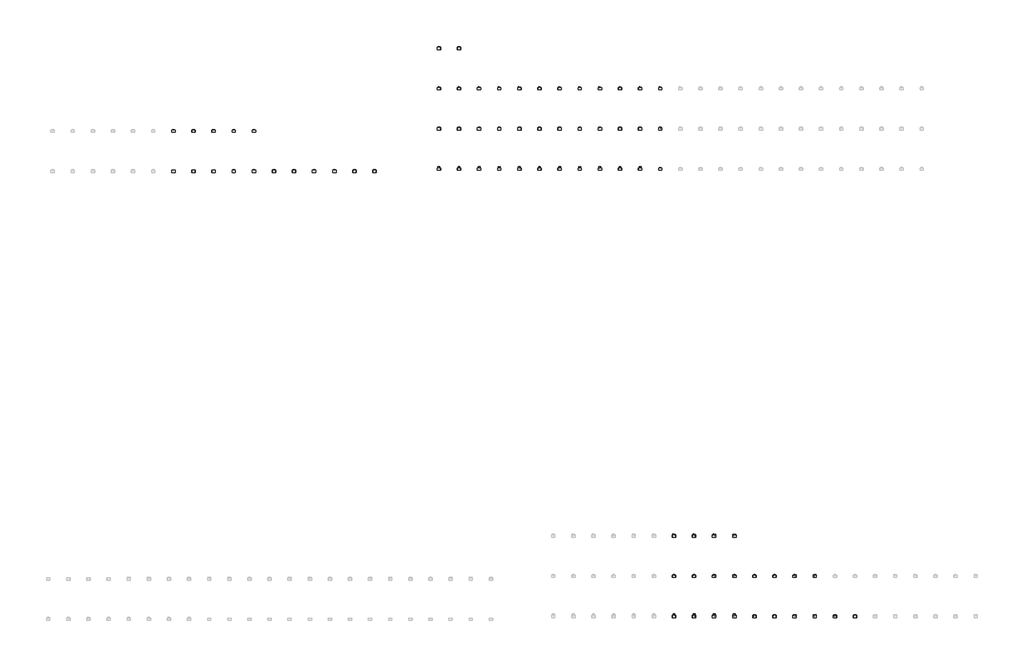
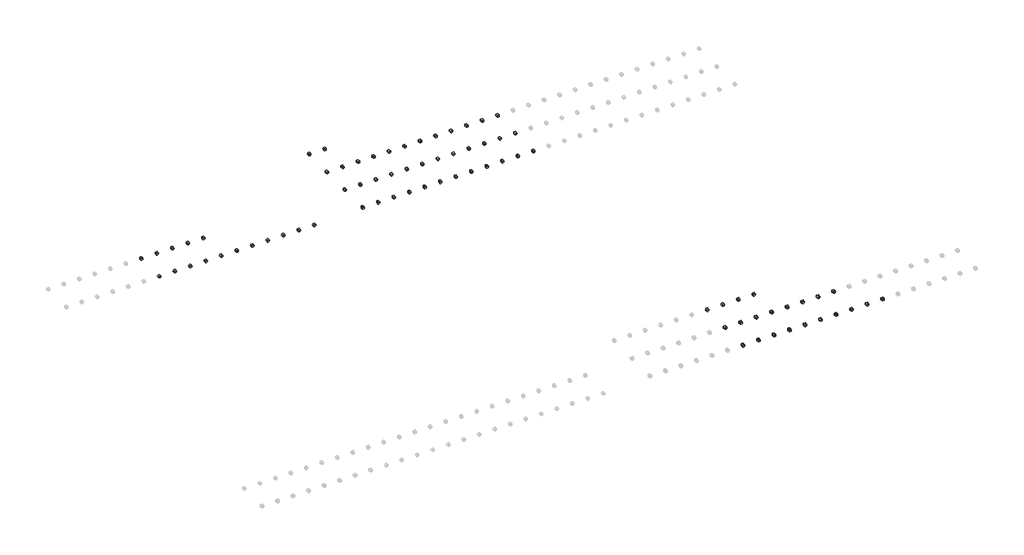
# One storey, part 12 of 18: 76 cable carrier fittings, 73 proxies.
"""IFC4 building model written with IfcOpenShell, lengths in millimetres."""

from ifc_helpers import new_model, si_unit, origin, place, context, project, spatial, transform, mapped, element, save
from components import electrical_fixtures_43cedca7, electrical_fixtures_73520d25, electrical_fixtures_1f2eaab9, electrical_fixtures_085c7708, electrical_fixtures_01d7cf26, electrical_fixtures_795b5cfc, electrical_fixtures_8f9d2783, electrical_fixtures_86e99d6b, electrical_fixtures_d0569d21, electrical_fixtures_aca33f49, electrical_fixtures_ba285ae0, electrical_fixtures_0364c754, cable_carrier_fitting_a64d4eba

model = new_model("IFC4")

# Units and contexts
model_context = context("Model", 3, world=origin())
ifc_project = project(units=[si_unit("LENGTHUNIT", "METRE", prefix="MILLI")], contexts=[model_context])

# Site, building, storey
site = spatial("IfcSite", under=ifc_project)
building = spatial("IfcBuilding", under=site)
storey = spatial("IfcBuildingStorey", under=building, Name="Этаж 01", Elevation=0.0)

# Proxies
placement = place(None, origin())
electrical_fixtures_shape = electrical_fixtures_43cedca7(model_context)
element("IfcBuildingElementProxy", 1, Name="IEK_Brite_Механизм розетки мультимедийной : АС_РА10-БрС", ObjectType="IEK_Brite_Механизм розетки мультимедийной : АС_РА10-БрС", at=placement, inside=storey, context=model_context, shape_type="MappedRepresentation", body=[
    mapped(electrical_fixtures_shape, transform((64136.4805226, -17760.0, 0.0), x_axis=(1.0, 0.0, 0.0), y_axis=(0.0, 1.0, 0.0), z_axis=(0.0, 0.0, 1.0))),
])
element("IfcBuildingElementProxy", 2, Name="IEK_Brite_Механизм розетки мультимедийной : АС_РА10-БрТБ", ObjectType="IEK_Brite_Механизм розетки мультимедийной : АС_РА10-БрТБ", at=placement, inside=storey, context=model_context, shape_type="MappedRepresentation", body=[
    mapped(electrical_fixtures_shape, transform((64536.4805226, -17760.0, 0.0), x_axis=(1.0, 0.0, 0.0), y_axis=(0.0, 1.0, 0.0), z_axis=(0.0, 0.0, 1.0))),
])
element("IfcBuildingElementProxy", 3, Name="IEK_Brite_Механизм розетки мультимедийной : АС_РА10-БрЧ", ObjectType="IEK_Brite_Механизм розетки мультимедийной : АС_РА10-БрЧ", at=placement, inside=storey, context=model_context, shape_type="MappedRepresentation", body=[
    mapped(electrical_fixtures_shape, transform((64936.4805226, -17760.0, 0.0), x_axis=(1.0, 0.0, 0.0), y_axis=(0.0, 1.0, 0.0), z_axis=(0.0, 0.0, 1.0))),
])
element("IfcBuildingElementProxy", 4, Name="IEK_Brite_Механизм розетки мультимедийной : АС_РА10-БрШ", ObjectType="IEK_Brite_Механизм розетки мультимедийной : АС_РА10-БрШ", at=placement, inside=storey, context=model_context, shape_type="MappedRepresentation", body=[
    mapped(electrical_fixtures_shape, transform((65336.4805226, -17760.0, 0.0), x_axis=(1.0, 0.0, 0.0), y_axis=(0.0, 1.0, 0.0), z_axis=(0.0, 0.0, 1.0))),
])
electrical_fixtures_2_shape = electrical_fixtures_73520d25(model_context)
element("IfcBuildingElementProxy", 5, Name="IEK_Brite_Механизм розетки мультимедийной : HDMI_РHDMI-0-БрА", ObjectType="IEK_Brite_Механизм розетки мультимедийной : HDMI_РHDMI-0-БрА", at=placement, inside=storey, context=model_context, shape_type="MappedRepresentation", body=[
    mapped(electrical_fixtures_2_shape, transform((65736.4805226, -17760.0, 0.0), x_axis=(1.0, 0.0, 0.0), y_axis=(0.0, 1.0, 0.0), z_axis=(0.0, 0.0, 1.0))),
])
element("IfcBuildingElementProxy", 6, Name="IEK_Brite_Механизм розетки мультимедийной : HDMI_РHDMI-0-БрБ", ObjectType="IEK_Brite_Механизм розетки мультимедийной : HDMI_РHDMI-0-БрБ", at=placement, inside=storey, context=model_context, shape_type="MappedRepresentation", body=[
    mapped(electrical_fixtures_2_shape, transform((66136.4805226, -17760.0, 0.0), x_axis=(1.0, 0.0, 0.0), y_axis=(0.0, 1.0, 0.0), z_axis=(0.0, 0.0, 1.0))),
])
element("IfcBuildingElementProxy", 7, Name="IEK_Brite_Механизм розетки мультимедийной : HDMI_РHDMI-0-БрГ", ObjectType="IEK_Brite_Механизм розетки мультимедийной : HDMI_РHDMI-0-БрГ", at=placement, inside=storey, context=model_context, shape_type="MappedRepresentation", body=[
    mapped(electrical_fixtures_2_shape, transform((66536.4805226, -17760.0, 0.0), x_axis=(1.0, 0.0, 0.0), y_axis=(0.0, 1.0, 0.0), z_axis=(0.0, 0.0, 1.0))),
])
element("IfcBuildingElementProxy", 8, Name="IEK_Brite_Механизм розетки мультимедийной : HDMI_РHDMI-0-БрЖ", ObjectType="IEK_Brite_Механизм розетки мультимедийной : HDMI_РHDMI-0-БрЖ", at=placement, inside=storey, context=model_context, shape_type="MappedRepresentation", body=[
    mapped(electrical_fixtures_2_shape, transform((66936.4805226, -17760.0, 0.0), x_axis=(1.0, 0.0, 0.0), y_axis=(0.0, 1.0, 0.0), z_axis=(0.0, 0.0, 1.0))),
])
element("IfcBuildingElementProxy", 9, Name="IEK_Brite_Механизм розетки мультимедийной : HDMI_РHDMI-0-БрКр", ObjectType="IEK_Brite_Механизм розетки мультимедийной : HDMI_РHDMI-0-БрКр", at=placement, inside=storey, context=model_context, shape_type="MappedRepresentation", body=[
    mapped(electrical_fixtures_2_shape, transform((67336.4805226, -17760.0, 0.0), x_axis=(1.0, 0.0, 0.0), y_axis=(0.0, 1.0, 0.0), z_axis=(0.0, 0.0, 1.0))),
])
element("IfcBuildingElementProxy", 10, Name="IEK_Brite_Механизм розетки мультимедийной : HDMI_РHDMI-0-БрМ", ObjectType="IEK_Brite_Механизм розетки мультимедийной : HDMI_РHDMI-0-БрМ", at=placement, inside=storey, context=model_context, shape_type="MappedRepresentation", body=[
    mapped(electrical_fixtures_2_shape, transform((67736.4805226, -17760.0, 0.0), x_axis=(1.0, 0.0, 0.0), y_axis=(0.0, 1.0, 0.0), z_axis=(0.0, 0.0, 1.0))),
])
electrical_fixtures_3_shape = electrical_fixtures_1f2eaab9(model_context)
element("IfcBuildingElementProxy", 11, Name="IEK_Brite_Механизм розетки мультимедийной : TV П_РТВ10-0-БрБ", ObjectType="IEK_Brite_Механизм розетки мультимедийной : TV П_РТВ10-0-БрБ", at=placement, inside=storey, context=model_context, shape_type="MappedRepresentation", body=[
    mapped(electrical_fixtures_3_shape, transform((64136.4805226, -16960.0, 0.0), x_axis=(1.0, 0.0, 0.0), y_axis=(0.0, 1.0, 0.0), z_axis=(0.0, 0.0, 1.0))),
])
element("IfcBuildingElementProxy", 12, Name="IEK_Brite_Механизм розетки мультимедийной : TV П_РТВ10-0-БрГ", ObjectType="IEK_Brite_Механизм розетки мультимедийной : TV П_РТВ10-0-БрГ", at=placement, inside=storey, context=model_context, shape_type="MappedRepresentation", body=[
    mapped(electrical_fixtures_3_shape, transform((64536.4805226, -16960.0, 0.0), x_axis=(1.0, 0.0, 0.0), y_axis=(0.0, 1.0, 0.0), z_axis=(0.0, 0.0, 1.0))),
])
element("IfcBuildingElementProxy", 13, Name="IEK_Brite_Механизм розетки мультимедийной : TV П_РТВ10-0-БрЖ", ObjectType="IEK_Brite_Механизм розетки мультимедийной : TV П_РТВ10-0-БрЖ", at=placement, inside=storey, context=model_context, shape_type="MappedRepresentation", body=[
    mapped(electrical_fixtures_3_shape, transform((64936.4805226, -16960.0, 0.0), x_axis=(1.0, 0.0, 0.0), y_axis=(0.0, 1.0, 0.0), z_axis=(0.0, 0.0, 1.0))),
])
element("IfcBuildingElementProxy", 14, Name="IEK_Brite_Механизм розетки мультимедийной : TV П_РТВ10-0-БрКр", ObjectType="IEK_Brite_Механизм розетки мультимедийной : TV П_РТВ10-0-БрКр", at=placement, inside=storey, context=model_context, shape_type="MappedRepresentation", body=[
    mapped(electrical_fixtures_3_shape, transform((65336.4805226, -16960.0, 0.0), x_axis=(1.0, 0.0, 0.0), y_axis=(0.0, 1.0, 0.0), z_axis=(0.0, 0.0, 1.0))),
])
element("IfcBuildingElementProxy", 15, Name="IEK_Brite_Механизм розетки мультимедийной : TV П_РТВ10-0-БрМ", ObjectType="IEK_Brite_Механизм розетки мультимедийной : TV П_РТВ10-0-БрМ", at=placement, inside=storey, context=model_context, shape_type="MappedRepresentation", body=[
    mapped(electrical_fixtures_3_shape, transform((65736.4805226, -16960.0, 0.0), x_axis=(1.0, 0.0, 0.0), y_axis=(0.0, 1.0, 0.0), z_axis=(0.0, 0.0, 1.0))),
])
element("IfcBuildingElementProxy", 16, Name="IEK_Brite_Механизм розетки мультимедийной : TV П_РТВ10-0-БрС", ObjectType="IEK_Brite_Механизм розетки мультимедийной : TV П_РТВ10-0-БрС", at=placement, inside=storey, context=model_context, shape_type="MappedRepresentation", body=[
    mapped(electrical_fixtures_3_shape, transform((66136.4805226, -16960.0, 0.0), x_axis=(1.0, 0.0, 0.0), y_axis=(0.0, 1.0, 0.0), z_axis=(0.0, 0.0, 1.0))),
])
element("IfcBuildingElementProxy", 17, Name="IEK_Brite_Механизм розетки мультимедийной : TV П_РТВ10-0-БрТБ", ObjectType="IEK_Brite_Механизм розетки мультимедийной : TV П_РТВ10-0-БрТБ", at=placement, inside=storey, context=model_context, shape_type="MappedRepresentation", body=[
    mapped(electrical_fixtures_3_shape, transform((66536.4805226, -16960.0, 0.0), x_axis=(1.0, 0.0, 0.0), y_axis=(0.0, 1.0, 0.0), z_axis=(0.0, 0.0, 1.0))),
])
element("IfcBuildingElementProxy", 18, Name="IEK_Brite_Механизм розетки мультимедийной : TV П_РТВ10-0-БрЧ", ObjectType="IEK_Brite_Механизм розетки мультимедийной : TV П_РТВ10-0-БрЧ", at=placement, inside=storey, context=model_context, shape_type="MappedRepresentation", body=[
    mapped(electrical_fixtures_3_shape, transform((66936.4805226, -16960.0, 0.0), x_axis=(1.0, 0.0, 0.0), y_axis=(0.0, 1.0, 0.0), z_axis=(0.0, 0.0, 1.0))),
])
electrical_fixtures_4_shape = electrical_fixtures_085c7708(model_context)
element("IfcBuildingElementProxy", 19, Name="IEK_Brite_Механизм розетки мультимедийной : TV+SAT-РТВ/РСп12-БрТБ", ObjectType="IEK_Brite_Механизм розетки мультимедийной : TV+SAT-РТВ/РСп12-БрТБ", at=placement, inside=storey, context=model_context, shape_type="MappedRepresentation", body=[
    mapped(electrical_fixtures_4_shape, transform((64136.4805226, -16160.0, 0.0), x_axis=(1.0, 0.0, 0.0), y_axis=(0.0, 1.0, 0.0), z_axis=(0.0, 0.0, 1.0))),
])
element("IfcBuildingElementProxy", 20, Name="IEK_Brite_Механизм розетки мультимедийной : TV+SAT-РТВ/РСп12-БрЧ", ObjectType="IEK_Brite_Механизм розетки мультимедийной : TV+SAT-РТВ/РСп12-БрЧ", at=placement, inside=storey, context=model_context, shape_type="MappedRepresentation", body=[
    mapped(electrical_fixtures_4_shape, transform((64536.4805226, -16160.0, 0.0), x_axis=(1.0, 0.0, 0.0), y_axis=(0.0, 1.0, 0.0), z_axis=(0.0, 0.0, 1.0))),
])
element("IfcBuildingElementProxy", 21, Name="IEK_Brite_Механизм розетки мультимедийной : TV+SAT-РТВ/РСп12-БрШ", ObjectType="IEK_Brite_Механизм розетки мультимедийной : TV+SAT-РТВ/РСп12-БрШ", at=placement, inside=storey, context=model_context, shape_type="MappedRepresentation", body=[
    mapped(electrical_fixtures_4_shape, transform((64936.4805226, -16160.0, 0.0), x_axis=(1.0, 0.0, 0.0), y_axis=(0.0, 1.0, 0.0), z_axis=(0.0, 0.0, 1.0))),
])
electrical_fixtures_5_shape = electrical_fixtures_01d7cf26(model_context)
element("IfcBuildingElementProxy", 22, Name="IEK_Brite_Механизм розетки мультимедийной : TV+RJ45-РТВ/РК12-БрА", ObjectType="IEK_Brite_Механизм розетки мультимедийной : TV+RJ45-РТВ/РК12-БрА", at=placement, inside=storey, context=model_context, shape_type="MappedRepresentation", body=[
    mapped(electrical_fixtures_5_shape, transform((65336.4805226, -16160.0, 0.0), x_axis=(1.0, 0.0, 0.0), y_axis=(0.0, 1.0, 0.0), z_axis=(0.0, 0.0, 1.0))),
])
electrical_fixtures_6_shape = electrical_fixtures_795b5cfc(model_context)
element("IfcBuildingElementProxy", 23, Name="IEK_Skandy_Механизм розетки информационной : 2хRJ45 к6_SK-K04S", ObjectType="IEK_Skandy_Механизм розетки информационной : 2хRJ45 к6_SK-K04S", at=placement, inside=storey, context=model_context, shape_type="MappedRepresentation", body=[
    mapped(electrical_fixtures_6_shape, transform((55384.0830756, -8905.0, 0.0), x_axis=(1.0, 0.0, 0.0), y_axis=(0.0, 1.0, 0.0), z_axis=(0.0, 0.0, 1.0))),
])
element("IfcBuildingElementProxy", 24, Name="IEK_Skandy_Механизм розетки информационной : 2хRJ45 к6_SK-K04Sa", ObjectType="IEK_Skandy_Механизм розетки информационной : 2хRJ45 к6_SK-K04Sa", at=placement, inside=storey, context=model_context, shape_type="MappedRepresentation", body=[
    mapped(electrical_fixtures_6_shape, transform((55784.0830756, -8905.0, 0.0), x_axis=(1.0, 0.0, 0.0), y_axis=(0.0, 1.0, 0.0), z_axis=(0.0, 0.0, 1.0))),
])
element("IfcBuildingElementProxy", 25, Name="IEK_Skandy_Механизм розетки информационной : 2хRJ45 к6_SK-K04Sh", ObjectType="IEK_Skandy_Механизм розетки информационной : 2хRJ45 к6_SK-K04Sh", at=placement, inside=storey, context=model_context, shape_type="MappedRepresentation", body=[
    mapped(electrical_fixtures_6_shape, transform((56184.0830756, -8905.0, 0.0), x_axis=(1.0, 0.0, 0.0), y_axis=(0.0, 1.0, 0.0), z_axis=(0.0, 0.0, 1.0))),
])
element("IfcBuildingElementProxy", 26, Name="IEK_Skandy_Механизм розетки информационной : 2хRJ45 к6_SK-K04T", ObjectType="IEK_Skandy_Механизм розетки информационной : 2хRJ45 к6_SK-K04T", at=placement, inside=storey, context=model_context, shape_type="MappedRepresentation", body=[
    mapped(electrical_fixtures_6_shape, transform((56584.0830756, -8905.0, 0.0), x_axis=(1.0, 0.0, 0.0), y_axis=(0.0, 1.0, 0.0), z_axis=(0.0, 0.0, 1.0))),
])
element("IfcBuildingElementProxy", 27, Name="IEK_Skandy_Механизм розетки информационной : 2хRJ45 к6_SK-K04W", ObjectType="IEK_Skandy_Механизм розетки информационной : 2хRJ45 к6_SK-K04W", at=placement, inside=storey, context=model_context, shape_type="MappedRepresentation", body=[
    mapped(electrical_fixtures_6_shape, transform((56984.0830756, -8905.0, 0.0), x_axis=(1.0, 0.0, 0.0), y_axis=(0.0, 1.0, 0.0), z_axis=(0.0, 0.0, 1.0))),
])
electrical_fixtures_7_shape = electrical_fixtures_8f9d2783(model_context)
element("IfcBuildingElementProxy", 28, Name="IEK_Skandy_Механизм розетки информационной : RJ45 к5E_SK-K01B", ObjectType="IEK_Skandy_Механизм розетки информационной : RJ45 к5E_SK-K01B", at=placement, inside=storey, context=model_context, shape_type="MappedRepresentation", body=[
    mapped(electrical_fixtures_7_shape, transform((57384.0830756, -8905.0, 0.0), x_axis=(1.0, 0.0, 0.0), y_axis=(0.0, 1.0, 0.0), z_axis=(0.0, 0.0, 1.0))),
])
element("IfcBuildingElementProxy", 29, Name="IEK_Skandy_Механизм розетки информационной : RJ45 к5E_SK-K01Bl", ObjectType="IEK_Skandy_Механизм розетки информационной : RJ45 к5E_SK-K01Bl", at=placement, inside=storey, context=model_context, shape_type="MappedRepresentation", body=[
    mapped(electrical_fixtures_7_shape, transform((57784.0830756, -8905.0, 0.0), x_axis=(1.0, 0.0, 0.0), y_axis=(0.0, 1.0, 0.0), z_axis=(0.0, 0.0, 1.0))),
])
element("IfcBuildingElementProxy", 30, Name="IEK_Skandy_Механизм розетки информационной : RJ45 к5E_SK-K01G", ObjectType="IEK_Skandy_Механизм розетки информационной : RJ45 к5E_SK-K01G", at=placement, inside=storey, context=model_context, shape_type="MappedRepresentation", body=[
    mapped(electrical_fixtures_7_shape, transform((58184.0830756, -8905.0, 0.0), x_axis=(1.0, 0.0, 0.0), y_axis=(0.0, 1.0, 0.0), z_axis=(0.0, 0.0, 1.0))),
])
element("IfcBuildingElementProxy", 31, Name="IEK_Skandy_Механизм розетки информационной : RJ45 к6_SK-K02S", ObjectType="IEK_Skandy_Механизм розетки информационной : RJ45 к6_SK-K02S", at=placement, inside=storey, context=model_context, shape_type="MappedRepresentation", body=[
    mapped(electrical_fixtures_7_shape, transform((54184.0830756, -8105.0, 0.0), x_axis=(1.0, 0.0, 0.0), y_axis=(0.0, 1.0, 0.0), z_axis=(0.0, 0.0, 1.0))),
])
element("IfcBuildingElementProxy", 32, Name="IEK_Skandy_Механизм розетки информационной : RJ45 к6_SK-K02Sa", ObjectType="IEK_Skandy_Механизм розетки информационной : RJ45 к6_SK-K02Sa", at=placement, inside=storey, context=model_context, shape_type="MappedRepresentation", body=[
    mapped(electrical_fixtures_7_shape, transform((54584.0830756, -8105.0, 0.0), x_axis=(1.0, 0.0, 0.0), y_axis=(0.0, 1.0, 0.0), z_axis=(0.0, 0.0, 1.0))),
])
element("IfcBuildingElementProxy", 33, Name="IEK_Skandy_Механизм розетки информационной : RJ45 к6_SK-K02Sh", ObjectType="IEK_Skandy_Механизм розетки информационной : RJ45 к6_SK-K02Sh", at=placement, inside=storey, context=model_context, shape_type="MappedRepresentation", body=[
    mapped(electrical_fixtures_7_shape, transform((54984.0830756, -8105.0, 0.0), x_axis=(1.0, 0.0, 0.0), y_axis=(0.0, 1.0, 0.0), z_axis=(0.0, 0.0, 1.0))),
])
element("IfcBuildingElementProxy", 34, Name="IEK_Skandy_Механизм розетки информационной : RJ45 к6_SK-K02T", ObjectType="IEK_Skandy_Механизм розетки информационной : RJ45 к6_SK-K02T", at=placement, inside=storey, context=model_context, shape_type="MappedRepresentation", body=[
    mapped(electrical_fixtures_7_shape, transform((55384.0830756, -8105.0, 0.0), x_axis=(1.0, 0.0, 0.0), y_axis=(0.0, 1.0, 0.0), z_axis=(0.0, 0.0, 1.0))),
])
element("IfcBuildingElementProxy", 35, Name="IEK_Skandy_Механизм розетки информационной : RJ45 к6_SK-K02W", ObjectType="IEK_Skandy_Механизм розетки информационной : RJ45 к6_SK-K02W", at=placement, inside=storey, context=model_context, shape_type="MappedRepresentation", body=[
    mapped(electrical_fixtures_7_shape, transform((55784.0830756, -8105.0, 0.0), x_axis=(1.0, 0.0, 0.0), y_axis=(0.0, 1.0, 0.0), z_axis=(0.0, 0.0, 1.0))),
])
electrical_fixtures_8_shape = electrical_fixtures_86e99d6b(model_context)
element("IfcBuildingElementProxy", 36, Name="IEK_Skandy_Механизм розетки мультимедийной : TV+RJ45_SK-A14S", ObjectType="IEK_Skandy_Механизм розетки мультимедийной : TV+RJ45_SK-A14S", at=placement, inside=storey, context=model_context, shape_type="MappedRepresentation", body=[
    mapped(electrical_fixtures_8_shape, transform((59463.2731659, -7260.0, 0.0), x_axis=(1.0, 0.0, 0.0), y_axis=(0.0, 1.0, 0.0), z_axis=(0.0, 0.0, 1.0))),
])
element("IfcBuildingElementProxy", 37, Name="IEK_Skandy_Механизм розетки мультимедийной : TV+RJ45_SK-A14Sa", ObjectType="IEK_Skandy_Механизм розетки мультимедийной : TV+RJ45_SK-A14Sa", at=placement, inside=storey, context=model_context, shape_type="MappedRepresentation", body=[
    mapped(electrical_fixtures_8_shape, transform((59863.2731659, -7260.0, 0.0), x_axis=(1.0, 0.0, 0.0), y_axis=(0.0, 1.0, 0.0), z_axis=(0.0, 0.0, 1.0))),
])
element("IfcBuildingElementProxy", 38, Name="IEK_Skandy_Механизм розетки мультимедийной : TV+RJ45_SK-A14Sh", ObjectType="IEK_Skandy_Механизм розетки мультимедийной : TV+RJ45_SK-A14Sh", at=placement, inside=storey, context=model_context, shape_type="MappedRepresentation", body=[
    mapped(electrical_fixtures_8_shape, transform((60263.2731659, -7260.0, 0.0), x_axis=(1.0, 0.0, 0.0), y_axis=(0.0, 1.0, 0.0), z_axis=(0.0, 0.0, 1.0))),
])
element("IfcBuildingElementProxy", 39, Name="IEK_Skandy_Механизм розетки мультимедийной : TV+RJ45_SK-A14T", ObjectType="IEK_Skandy_Механизм розетки мультимедийной : TV+RJ45_SK-A14T", at=placement, inside=storey, context=model_context, shape_type="MappedRepresentation", body=[
    mapped(electrical_fixtures_8_shape, transform((60663.2731659, -7260.0, 0.0), x_axis=(1.0, 0.0, 0.0), y_axis=(0.0, 1.0, 0.0), z_axis=(0.0, 0.0, 1.0))),
])
element("IfcBuildingElementProxy", 40, Name="IEK_Skandy_Механизм розетки мультимедийной : TV+RJ45_SK-A14W", ObjectType="IEK_Skandy_Механизм розетки мультимедийной : TV+RJ45_SK-A14W", at=placement, inside=storey, context=model_context, shape_type="MappedRepresentation", body=[
    mapped(electrical_fixtures_8_shape, transform((61063.2731659, -7260.0, 0.0), x_axis=(1.0, 0.0, 0.0), y_axis=(0.0, 1.0, 0.0), z_axis=(0.0, 0.0, 1.0))),
])
element("IfcBuildingElementProxy", 41, Name="IEK_Skandy_Механизм розетки мультимедийной : TV+RJ45_SK-A15B", ObjectType="IEK_Skandy_Механизм розетки мультимедийной : TV+RJ45_SK-A15B", at=placement, inside=storey, context=model_context, shape_type="MappedRepresentation", body=[
    mapped(electrical_fixtures_8_shape, transform((61463.2731659, -7260.0, 0.0), x_axis=(1.0, 0.0, 0.0), y_axis=(0.0, 1.0, 0.0), z_axis=(0.0, 0.0, 1.0))),
])
element("IfcBuildingElementProxy", 42, Name="IEK_Skandy_Механизм розетки мультимедийной : TV+RJ45_SK-A15Bl", ObjectType="IEK_Skandy_Механизм розетки мультимедийной : TV+RJ45_SK-A15Bl", at=placement, inside=storey, context=model_context, shape_type="MappedRepresentation", body=[
    mapped(electrical_fixtures_8_shape, transform((61863.2731659, -7260.0, 0.0), x_axis=(1.0, 0.0, 0.0), y_axis=(0.0, 1.0, 0.0), z_axis=(0.0, 0.0, 1.0))),
])
element("IfcBuildingElementProxy", 43, Name="IEK_Skandy_Механизм розетки мультимедийной : TV+RJ45_SK-A15G", ObjectType="IEK_Skandy_Механизм розетки мультимедийной : TV+RJ45_SK-A15G", at=placement, inside=storey, context=model_context, shape_type="MappedRepresentation", body=[
    mapped(electrical_fixtures_8_shape, transform((62263.2731659, -7260.0, 0.0), x_axis=(1.0, 0.0, 0.0), y_axis=(0.0, 1.0, 0.0), z_axis=(0.0, 0.0, 1.0))),
])
element("IfcBuildingElementProxy", 44, Name="IEK_Skandy_Механизм розетки мультимедийной : TV+RJ45_SK-A15Gr", ObjectType="IEK_Skandy_Механизм розетки мультимедийной : TV+RJ45_SK-A15Gr", at=placement, inside=storey, context=model_context, shape_type="MappedRepresentation", body=[
    mapped(electrical_fixtures_8_shape, transform((62663.2731659, -7260.0, 0.0), x_axis=(1.0, 0.0, 0.0), y_axis=(0.0, 1.0, 0.0), z_axis=(0.0, 0.0, 1.0))),
])
element("IfcBuildingElementProxy", 45, Name="IEK_Skandy_Механизм розетки мультимедийной : TV+RJ45_SK-A15M", ObjectType="IEK_Skandy_Механизм розетки мультимедийной : TV+RJ45_SK-A15M", at=placement, inside=storey, context=model_context, shape_type="MappedRepresentation", body=[
    mapped(electrical_fixtures_8_shape, transform((63063.2731659, -7260.0, 0.0), x_axis=(1.0, 0.0, 0.0), y_axis=(0.0, 1.0, 0.0), z_axis=(0.0, 0.0, 1.0))),
])
element("IfcBuildingElementProxy", 46, Name="IEK_Skandy_Механизм розетки мультимедийной : TV+RJ45_SK-A15N", ObjectType="IEK_Skandy_Механизм розетки мультимедийной : TV+RJ45_SK-A15N", at=placement, inside=storey, context=model_context, shape_type="MappedRepresentation", body=[
    mapped(electrical_fixtures_8_shape, transform((63463.2731659, -7260.0, 0.0), x_axis=(1.0, 0.0, 0.0), y_axis=(0.0, 1.0, 0.0), z_axis=(0.0, 0.0, 1.0))),
])
element("IfcBuildingElementProxy", 47, Name="IEK_Skandy_Механизм розетки мультимедийной : TV+RJ45_SK-A15S", ObjectType="IEK_Skandy_Механизм розетки мультимедийной : TV+RJ45_SK-A15S", at=placement, inside=storey, context=model_context, shape_type="MappedRepresentation", body=[
    mapped(electrical_fixtures_8_shape, transform((63863.2731659, -7260.0, 0.0), x_axis=(1.0, 0.0, 0.0), y_axis=(0.0, 1.0, 0.0), z_axis=(0.0, 0.0, 1.0))),
])
electrical_fixtures_9_shape = electrical_fixtures_d0569d21(model_context)
element("IfcBuildingElementProxy", 48, Name="IEK_Skandy_Механизм розетки мультимедийной : TV+SAT_SK-A13T", ObjectType="IEK_Skandy_Механизм розетки мультимедийной : TV+SAT_SK-A13T", at=placement, inside=storey, context=model_context, shape_type="MappedRepresentation", body=[
    mapped(electrical_fixtures_9_shape, transform((59463.2731659, -6460.0, 0.0), x_axis=(1.0, 0.0, 0.0), y_axis=(0.0, 1.0, 0.0), z_axis=(0.0, 0.0, 1.0))),
])
element("IfcBuildingElementProxy", 49, Name="IEK_Skandy_Механизм розетки мультимедийной : TV+SAT_SK-A13W", ObjectType="IEK_Skandy_Механизм розетки мультимедийной : TV+SAT_SK-A13W", at=placement, inside=storey, context=model_context, shape_type="MappedRepresentation", body=[
    mapped(electrical_fixtures_9_shape, transform((59863.2731659, -6460.0, 0.0), x_axis=(1.0, 0.0, 0.0), y_axis=(0.0, 1.0, 0.0), z_axis=(0.0, 0.0, 1.0))),
])
electrical_fixtures_10_shape = electrical_fixtures_aca33f49(model_context)
element("IfcBuildingElementProxy", 50, Name="IEK_Skandy_Механизм розетки мультимедийной : АС_SK-A01B", ObjectType="IEK_Skandy_Механизм розетки мультимедийной : АС_SK-A01B", at=placement, inside=storey, context=model_context, shape_type="MappedRepresentation", body=[
    mapped(electrical_fixtures_10_shape, transform((59463.2731659, -8860.0, 0.0), x_axis=(1.0, 0.0, 0.0), y_axis=(0.0, 1.0, 0.0), z_axis=(0.0, 0.0, 1.0))),
])
element("IfcBuildingElementProxy", 51, Name="IEK_Skandy_Механизм розетки мультимедийной : АС_SK-A01Bl", ObjectType="IEK_Skandy_Механизм розетки мультимедийной : АС_SK-A01Bl", at=placement, inside=storey, context=model_context, shape_type="MappedRepresentation", body=[
    mapped(electrical_fixtures_10_shape, transform((59863.2731659, -8860.0, 0.0), x_axis=(1.0, 0.0, 0.0), y_axis=(0.0, 1.0, 0.0), z_axis=(0.0, 0.0, 1.0))),
])
element("IfcBuildingElementProxy", 52, Name="IEK_Skandy_Механизм розетки мультимедийной : АС_SK-A01G", ObjectType="IEK_Skandy_Механизм розетки мультимедийной : АС_SK-A01G", at=placement, inside=storey, context=model_context, shape_type="MappedRepresentation", body=[
    mapped(electrical_fixtures_10_shape, transform((60263.2731659, -8860.0, 0.0), x_axis=(1.0, 0.0, 0.0), y_axis=(0.0, 1.0, 0.0), z_axis=(0.0, 0.0, 1.0))),
])
element("IfcBuildingElementProxy", 53, Name="IEK_Skandy_Механизм розетки мультимедийной : АС_SK-A01Gr", ObjectType="IEK_Skandy_Механизм розетки мультимедийной : АС_SK-A01Gr", at=placement, inside=storey, context=model_context, shape_type="MappedRepresentation", body=[
    mapped(electrical_fixtures_10_shape, transform((60663.2731659, -8860.0, 0.0), x_axis=(1.0, 0.0, 0.0), y_axis=(0.0, 1.0, 0.0), z_axis=(0.0, 0.0, 1.0))),
])
element("IfcBuildingElementProxy", 54, Name="IEK_Skandy_Механизм розетки мультимедийной : АС_SK-A01M", ObjectType="IEK_Skandy_Механизм розетки мультимедийной : АС_SK-A01M", at=placement, inside=storey, context=model_context, shape_type="MappedRepresentation", body=[
    mapped(electrical_fixtures_10_shape, transform((61063.2731659, -8860.0, 0.0), x_axis=(1.0, 0.0, 0.0), y_axis=(0.0, 1.0, 0.0), z_axis=(0.0, 0.0, 1.0))),
])
element("IfcBuildingElementProxy", 55, Name="IEK_Skandy_Механизм розетки мультимедийной : АС_SK-A01N", ObjectType="IEK_Skandy_Механизм розетки мультимедийной : АС_SK-A01N", at=placement, inside=storey, context=model_context, shape_type="MappedRepresentation", body=[
    mapped(electrical_fixtures_10_shape, transform((61463.2731659, -8860.0, 0.0), x_axis=(1.0, 0.0, 0.0), y_axis=(0.0, 1.0, 0.0), z_axis=(0.0, 0.0, 1.0))),
])
element("IfcBuildingElementProxy", 56, Name="IEK_Skandy_Механизм розетки мультимедийной : АС_SK-A01S", ObjectType="IEK_Skandy_Механизм розетки мультимедийной : АС_SK-A01S", at=placement, inside=storey, context=model_context, shape_type="MappedRepresentation", body=[
    mapped(electrical_fixtures_10_shape, transform((61863.2731659, -8860.0, 0.0), x_axis=(1.0, 0.0, 0.0), y_axis=(0.0, 1.0, 0.0), z_axis=(0.0, 0.0, 1.0))),
])
element("IfcBuildingElementProxy", 57, Name="IEK_Skandy_Механизм розетки мультимедийной : АС_SK-A01Sa", ObjectType="IEK_Skandy_Механизм розетки мультимедийной : АС_SK-A01Sa", at=placement, inside=storey, context=model_context, shape_type="MappedRepresentation", body=[
    mapped(electrical_fixtures_10_shape, transform((62263.2731659, -8860.0, 0.0), x_axis=(1.0, 0.0, 0.0), y_axis=(0.0, 1.0, 0.0), z_axis=(0.0, 0.0, 1.0))),
])
element("IfcBuildingElementProxy", 58, Name="IEK_Skandy_Механизм розетки мультимедийной : АС_SK-A01Sh", ObjectType="IEK_Skandy_Механизм розетки мультимедийной : АС_SK-A01Sh", at=placement, inside=storey, context=model_context, shape_type="MappedRepresentation", body=[
    mapped(electrical_fixtures_10_shape, transform((62663.2731659, -8860.0, 0.0), x_axis=(1.0, 0.0, 0.0), y_axis=(0.0, 1.0, 0.0), z_axis=(0.0, 0.0, 1.0))),
])
element("IfcBuildingElementProxy", 59, Name="IEK_Skandy_Механизм розетки мультимедийной : АС_SK-A01T", ObjectType="IEK_Skandy_Механизм розетки мультимедийной : АС_SK-A01T", at=placement, inside=storey, context=model_context, shape_type="MappedRepresentation", body=[
    mapped(electrical_fixtures_10_shape, transform((63063.2731659, -8860.0, 0.0), x_axis=(1.0, 0.0, 0.0), y_axis=(0.0, 1.0, 0.0), z_axis=(0.0, 0.0, 1.0))),
])
element("IfcBuildingElementProxy", 60, Name="IEK_Skandy_Механизм розетки мультимедийной : АС_SK-A01W", ObjectType="IEK_Skandy_Механизм розетки мультимедийной : АС_SK-A01W", at=placement, inside=storey, context=model_context, shape_type="MappedRepresentation", body=[
    mapped(electrical_fixtures_10_shape, transform((63463.2731659, -8860.0, 0.0), x_axis=(1.0, 0.0, 0.0), y_axis=(0.0, 1.0, 0.0), z_axis=(0.0, 0.0, 1.0))),
])
electrical_fixtures_11_shape = electrical_fixtures_ba285ae0(model_context)
element("IfcBuildingElementProxy", 61, Name="IEK_Skandy_Механизм розетки мультимедийной : HDMI_SK-H01B", ObjectType="IEK_Skandy_Механизм розетки мультимедийной : HDMI_SK-H01B", at=placement, inside=storey, context=model_context, shape_type="MappedRepresentation", body=[
    mapped(electrical_fixtures_11_shape, transform((63863.2731659, -8860.0, 0.0), x_axis=(1.0, 0.0, 0.0), y_axis=(0.0, 1.0, 0.0), z_axis=(0.0, 0.0, 1.0))),
])
electrical_fixtures_12_shape = electrical_fixtures_0364c754(model_context)
element("IfcBuildingElementProxy", 62, Name="IEK_Skandy_Механизм розетки мультимедийной : TV О_SK-A12Gr", ObjectType="IEK_Skandy_Механизм розетки мультимедийной : TV О_SK-A12Gr", at=placement, inside=storey, context=model_context, shape_type="MappedRepresentation", body=[
    mapped(electrical_fixtures_12_shape, transform((59463.2731659, -8060.0, 0.0), x_axis=(1.0, 0.0, 0.0), y_axis=(0.0, 1.0, 0.0), z_axis=(0.0, 0.0, 1.0))),
])
element("IfcBuildingElementProxy", 63, Name="IEK_Skandy_Механизм розетки мультимедийной : TV О_SK-A12M", ObjectType="IEK_Skandy_Механизм розетки мультимедийной : TV О_SK-A12M", at=placement, inside=storey, context=model_context, shape_type="MappedRepresentation", body=[
    mapped(electrical_fixtures_12_shape, transform((59863.2731659, -8060.0, 0.0), x_axis=(1.0, 0.0, 0.0), y_axis=(0.0, 1.0, 0.0), z_axis=(0.0, 0.0, 1.0))),
])
element("IfcBuildingElementProxy", 64, Name="IEK_Skandy_Механизм розетки мультимедийной : TV О_SK-A12N", ObjectType="IEK_Skandy_Механизм розетки мультимедийной : TV О_SK-A12N", at=placement, inside=storey, context=model_context, shape_type="MappedRepresentation", body=[
    mapped(electrical_fixtures_12_shape, transform((60263.2731659, -8060.0, 0.0), x_axis=(1.0, 0.0, 0.0), y_axis=(0.0, 1.0, 0.0), z_axis=(0.0, 0.0, 1.0))),
])
element("IfcBuildingElementProxy", 65, Name="IEK_Skandy_Механизм розетки мультимедийной : TV О_SK-A12S", ObjectType="IEK_Skandy_Механизм розетки мультимедийной : TV О_SK-A12S", at=placement, inside=storey, context=model_context, shape_type="MappedRepresentation", body=[
    mapped(electrical_fixtures_12_shape, transform((60663.2731659, -8060.0, 0.0), x_axis=(1.0, 0.0, 0.0), y_axis=(0.0, 1.0, 0.0), z_axis=(0.0, 0.0, 1.0))),
])
element("IfcBuildingElementProxy", 66, Name="IEK_Skandy_Механизм розетки мультимедийной : TV О_SK-A12Sa", ObjectType="IEK_Skandy_Механизм розетки мультимедийной : TV О_SK-A12Sa", at=placement, inside=storey, context=model_context, shape_type="MappedRepresentation", body=[
    mapped(electrical_fixtures_12_shape, transform((61063.2731659, -8060.0, 0.0), x_axis=(1.0, 0.0, 0.0), y_axis=(0.0, 1.0, 0.0), z_axis=(0.0, 0.0, 1.0))),
])
element("IfcBuildingElementProxy", 67, Name="IEK_Skandy_Механизм розетки мультимедийной : TV О_SK-A12Sh", ObjectType="IEK_Skandy_Механизм розетки мультимедийной : TV О_SK-A12Sh", at=placement, inside=storey, context=model_context, shape_type="MappedRepresentation", body=[
    mapped(electrical_fixtures_12_shape, transform((61463.2731659, -8060.0, 0.0), x_axis=(1.0, 0.0, 0.0), y_axis=(0.0, 1.0, 0.0), z_axis=(0.0, 0.0, 1.0))),
])
element("IfcBuildingElementProxy", 68, Name="IEK_Skandy_Механизм розетки мультимедийной : TV О_SK-A12T", ObjectType="IEK_Skandy_Механизм розетки мультимедийной : TV О_SK-A12T", at=placement, inside=storey, context=model_context, shape_type="MappedRepresentation", body=[
    mapped(electrical_fixtures_12_shape, transform((61863.2731659, -8060.0, 0.0), x_axis=(1.0, 0.0, 0.0), y_axis=(0.0, 1.0, 0.0), z_axis=(0.0, 0.0, 1.0))),
])
element("IfcBuildingElementProxy", 69, Name="IEK_Skandy_Механизм розетки мультимедийной : TV О_SK-A12W", ObjectType="IEK_Skandy_Механизм розетки мультимедийной : TV О_SK-A12W", at=placement, inside=storey, context=model_context, shape_type="MappedRepresentation", body=[
    mapped(electrical_fixtures_12_shape, transform((62263.2731659, -8060.0, 0.0), x_axis=(1.0, 0.0, 0.0), y_axis=(0.0, 1.0, 0.0), z_axis=(0.0, 0.0, 1.0))),
])
element("IfcBuildingElementProxy", 70, Name="IEK_Skandy_Механизм розетки мультимедийной : TV П_SK-A17B", ObjectType="IEK_Skandy_Механизм розетки мультимедийной : TV П_SK-A17B", at=placement, inside=storey, context=model_context, shape_type="MappedRepresentation", body=[
    mapped(electrical_fixtures_12_shape, transform((62663.2731659, -8060.0, 0.0), x_axis=(1.0, 0.0, 0.0), y_axis=(0.0, 1.0, 0.0), z_axis=(0.0, 0.0, 1.0))),
])
element("IfcBuildingElementProxy", 71, Name="IEK_Skandy_Механизм розетки мультимедийной : TV П_SK-A17Bl", ObjectType="IEK_Skandy_Механизм розетки мультимедийной : TV П_SK-A17Bl", at=placement, inside=storey, context=model_context, shape_type="MappedRepresentation", body=[
    mapped(electrical_fixtures_12_shape, transform((63063.2731659, -8060.0, 0.0), x_axis=(1.0, 0.0, 0.0), y_axis=(0.0, 1.0, 0.0), z_axis=(0.0, 0.0, 1.0))),
])
element("IfcBuildingElementProxy", 72, Name="IEK_Skandy_Механизм розетки мультимедийной : TV П_SK-A17G", ObjectType="IEK_Skandy_Механизм розетки мультимедийной : TV П_SK-A17G", at=placement, inside=storey, context=model_context, shape_type="MappedRepresentation", body=[
    mapped(electrical_fixtures_12_shape, transform((63463.2731659, -8060.0, 0.0), x_axis=(1.0, 0.0, 0.0), y_axis=(0.0, 1.0, 0.0), z_axis=(0.0, 0.0, 1.0))),
])
element("IfcBuildingElementProxy", 73, Name="IEK_Skandy_Механизм розетки мультимедийной : TV П_SK-A17Gr", ObjectType="IEK_Skandy_Механизм розетки мультимедийной : TV П_SK-A17Gr", at=placement, inside=storey, context=model_context, shape_type="MappedRepresentation", body=[
    mapped(electrical_fixtures_12_shape, transform((63863.2731659, -8060.0, 0.0), x_axis=(1.0, 0.0, 0.0), y_axis=(0.0, 1.0, 0.0), z_axis=(0.0, 0.0, 1.0))),
])

# Cable carrier fittings
cable_carrier_fitting_shape = cable_carrier_fitting_a64d4eba(model_context)
element("IfcCableCarrierFitting", 74, ObjectType="IEK_Коробка монтажная : стены_полые", at=placement, inside=storey, context=model_context, shape_type="MappedRepresentation", body=[
    mapped(cable_carrier_fitting_shape, transform((64136.4805226, -17760.0, 0.0), x_axis=(1.0, 0.0, 0.0), y_axis=(0.0, 1.0, 0.0), z_axis=(0.0, 0.0, 1.0))),
])
element("IfcCableCarrierFitting", 75, ObjectType="IEK_Коробка монтажная : стены_полые", at=placement, inside=storey, context=model_context, shape_type="MappedRepresentation", body=[
    mapped(cable_carrier_fitting_shape, transform((64536.4805226, -17760.0, 0.0), x_axis=(1.0, 0.0, 0.0), y_axis=(0.0, 1.0, 0.0), z_axis=(0.0, 0.0, 1.0))),
])
element("IfcCableCarrierFitting", 76, ObjectType="IEK_Коробка монтажная : стены_полые", at=placement, inside=storey, context=model_context, shape_type="MappedRepresentation", body=[
    mapped(cable_carrier_fitting_shape, transform((64936.4805226, -17760.0, 0.0), x_axis=(1.0, 0.0, 0.0), y_axis=(0.0, 1.0, 0.0), z_axis=(0.0, 0.0, 1.0))),
])
element("IfcCableCarrierFitting", 77, ObjectType="IEK_Коробка монтажная : стены_полые", at=placement, inside=storey, context=model_context, shape_type="MappedRepresentation", body=[
    mapped(cable_carrier_fitting_shape, transform((65336.4805226, -17760.0, 0.0), x_axis=(1.0, 0.0, 0.0), y_axis=(0.0, 1.0, 0.0), z_axis=(0.0, 0.0, 1.0))),
])
element("IfcCableCarrierFitting", 78, ObjectType="IEK_Коробка монтажная : стены_полые", at=placement, inside=storey, context=model_context, shape_type="MappedRepresentation", body=[
    mapped(cable_carrier_fitting_shape, transform((65736.4805226, -17760.0, 0.0), x_axis=(1.0, 0.0, 0.0), y_axis=(0.0, 1.0, 0.0), z_axis=(0.0, 0.0, 1.0))),
])
element("IfcCableCarrierFitting", 79, ObjectType="IEK_Коробка монтажная : стены_полые", at=placement, inside=storey, context=model_context, shape_type="MappedRepresentation", body=[
    mapped(cable_carrier_fitting_shape, transform((66136.4805226, -17760.0, 0.0), x_axis=(1.0, 0.0, 0.0), y_axis=(0.0, 1.0, 0.0), z_axis=(0.0, 0.0, 1.0))),
])
element("IfcCableCarrierFitting", 80, ObjectType="IEK_Коробка монтажная : стены_полые", at=placement, inside=storey, context=model_context, shape_type="MappedRepresentation", body=[
    mapped(cable_carrier_fitting_shape, transform((66536.4805226, -17760.0, 0.0), x_axis=(1.0, 0.0, 0.0), y_axis=(0.0, 1.0, 0.0), z_axis=(0.0, 0.0, 1.0))),
])
element("IfcCableCarrierFitting", 81, ObjectType="IEK_Коробка монтажная : стены_полые", at=placement, inside=storey, context=model_context, shape_type="MappedRepresentation", body=[
    mapped(cable_carrier_fitting_shape, transform((66936.4805226, -17760.0, 0.0), x_axis=(1.0, 0.0, 0.0), y_axis=(0.0, 1.0, 0.0), z_axis=(0.0, 0.0, 1.0))),
])
element("IfcCableCarrierFitting", 82, ObjectType="IEK_Коробка монтажная : стены_полые", at=placement, inside=storey, context=model_context, shape_type="MappedRepresentation", body=[
    mapped(cable_carrier_fitting_shape, transform((67336.4805226, -17760.0, 0.0), x_axis=(1.0, 0.0, 0.0), y_axis=(0.0, 1.0, 0.0), z_axis=(0.0, 0.0, 1.0))),
])
element("IfcCableCarrierFitting", 83, ObjectType="IEK_Коробка монтажная : стены_полые", at=placement, inside=storey, context=model_context, shape_type="MappedRepresentation", body=[
    mapped(cable_carrier_fitting_shape, transform((67736.4805226, -17760.0, 0.0), x_axis=(1.0, 0.0, 0.0), y_axis=(0.0, 1.0, 0.0), z_axis=(0.0, 0.0, 1.0))),
])
element("IfcCableCarrierFitting", 84, ObjectType="IEK_Коробка монтажная : стены_полые", at=placement, inside=storey, context=model_context, shape_type="MappedRepresentation", body=[
    mapped(cable_carrier_fitting_shape, transform((64136.4805226, -16960.0, 0.0), x_axis=(1.0, 0.0, 0.0), y_axis=(0.0, 1.0, 0.0), z_axis=(0.0, 0.0, 1.0))),
])
element("IfcCableCarrierFitting", 85, ObjectType="IEK_Коробка монтажная : стены_полые", at=placement, inside=storey, context=model_context, shape_type="MappedRepresentation", body=[
    mapped(cable_carrier_fitting_shape, transform((64536.4805226, -16960.0, 0.0), x_axis=(1.0, 0.0, 0.0), y_axis=(0.0, 1.0, 0.0), z_axis=(0.0, 0.0, 1.0))),
])
element("IfcCableCarrierFitting", 86, ObjectType="IEK_Коробка монтажная : стены_полые", at=placement, inside=storey, context=model_context, shape_type="MappedRepresentation", body=[
    mapped(cable_carrier_fitting_shape, transform((64936.4805226, -16960.0, 0.0), x_axis=(1.0, 0.0, 0.0), y_axis=(0.0, 1.0, 0.0), z_axis=(0.0, 0.0, 1.0))),
])
element("IfcCableCarrierFitting", 87, ObjectType="IEK_Коробка монтажная : стены_полые", at=placement, inside=storey, context=model_context, shape_type="MappedRepresentation", body=[
    mapped(cable_carrier_fitting_shape, transform((65336.4805226, -16960.0, 0.0), x_axis=(1.0, 0.0, 0.0), y_axis=(0.0, 1.0, 0.0), z_axis=(0.0, 0.0, 1.0))),
])
element("IfcCableCarrierFitting", 88, ObjectType="IEK_Коробка монтажная : стены_полые", at=placement, inside=storey, context=model_context, shape_type="MappedRepresentation", body=[
    mapped(cable_carrier_fitting_shape, transform((65736.4805226, -16960.0, 0.0), x_axis=(1.0, 0.0, 0.0), y_axis=(0.0, 1.0, 0.0), z_axis=(0.0, 0.0, 1.0))),
])
element("IfcCableCarrierFitting", 89, ObjectType="IEK_Коробка монтажная : стены_полые", at=placement, inside=storey, context=model_context, shape_type="MappedRepresentation", body=[
    mapped(cable_carrier_fitting_shape, transform((66136.4805226, -16960.0, 0.0), x_axis=(1.0, 0.0, 0.0), y_axis=(0.0, 1.0, 0.0), z_axis=(0.0, 0.0, 1.0))),
])
element("IfcCableCarrierFitting", 90, ObjectType="IEK_Коробка монтажная : стены_полые", at=placement, inside=storey, context=model_context, shape_type="MappedRepresentation", body=[
    mapped(cable_carrier_fitting_shape, transform((66536.4805226, -16960.0, 0.0), x_axis=(1.0, 0.0, 0.0), y_axis=(0.0, 1.0, 0.0), z_axis=(0.0, 0.0, 1.0))),
])
element("IfcCableCarrierFitting", 91, ObjectType="IEK_Коробка монтажная : стены_полые", at=placement, inside=storey, context=model_context, shape_type="MappedRepresentation", body=[
    mapped(cable_carrier_fitting_shape, transform((66936.4805226, -16960.0, 0.0), x_axis=(1.0, 0.0, 0.0), y_axis=(0.0, 1.0, 0.0), z_axis=(0.0, 0.0, 1.0))),
])
element("IfcCableCarrierFitting", 92, ObjectType="IEK_Коробка монтажная : стены_полые", at=placement, inside=storey, context=model_context, shape_type="MappedRepresentation", body=[
    mapped(cable_carrier_fitting_shape, transform((64136.4805226, -16160.0, 0.0), x_axis=(1.0, 0.0, 0.0), y_axis=(0.0, 1.0, 0.0), z_axis=(0.0, 0.0, 1.0))),
])
element("IfcCableCarrierFitting", 93, ObjectType="IEK_Коробка монтажная : стены_полые", at=placement, inside=storey, context=model_context, shape_type="MappedRepresentation", body=[
    mapped(cable_carrier_fitting_shape, transform((64536.4805226, -16160.0, 0.0), x_axis=(1.0, 0.0, 0.0), y_axis=(0.0, 1.0, 0.0), z_axis=(0.0, 0.0, 1.0))),
])
element("IfcCableCarrierFitting", 94, ObjectType="IEK_Коробка монтажная : стены_полые", at=placement, inside=storey, context=model_context, shape_type="MappedRepresentation", body=[
    mapped(cable_carrier_fitting_shape, transform((64936.4805226, -16160.0, 0.0), x_axis=(1.0, 0.0, 0.0), y_axis=(0.0, 1.0, 0.0), z_axis=(0.0, 0.0, 1.0))),
])
element("IfcCableCarrierFitting", 95, ObjectType="IEK_Коробка монтажная : стены_полые", at=placement, inside=storey, context=model_context, shape_type="MappedRepresentation", body=[
    mapped(cable_carrier_fitting_shape, transform((65336.4805226, -16160.0, 0.0), x_axis=(1.0, 0.0, 0.0), y_axis=(0.0, 1.0, 0.0), z_axis=(0.0, 0.0, 1.0))),
])
element("IfcCableCarrierFitting", 96, ObjectType="IEK_Коробка монтажная : стены_полые", at=placement, inside=storey, context=model_context, shape_type="MappedRepresentation", body=[
    mapped(cable_carrier_fitting_shape, transform((54184.0830756, -8905.0, 0.0), x_axis=(1.0, 0.0, 0.0), y_axis=(0.0, 1.0, 0.0), z_axis=(0.0, 0.0, 1.0))),
])
element("IfcCableCarrierFitting", 97, ObjectType="IEK_Коробка монтажная : стены_полые", at=placement, inside=storey, context=model_context, shape_type="MappedRepresentation", body=[
    mapped(cable_carrier_fitting_shape, transform((54584.0830756, -8905.0, 0.0), x_axis=(1.0, 0.0, 0.0), y_axis=(0.0, 1.0, 0.0), z_axis=(0.0, 0.0, 1.0))),
])
element("IfcCableCarrierFitting", 98, ObjectType="IEK_Коробка монтажная : стены_полые", at=placement, inside=storey, context=model_context, shape_type="MappedRepresentation", body=[
    mapped(cable_carrier_fitting_shape, transform((54984.0830756, -8905.0, 0.0), x_axis=(1.0, 0.0, 0.0), y_axis=(0.0, 1.0, 0.0), z_axis=(0.0, 0.0, 1.0))),
])
element("IfcCableCarrierFitting", 99, ObjectType="IEK_Коробка монтажная : стены_полые", at=placement, inside=storey, context=model_context, shape_type="MappedRepresentation", body=[
    mapped(cable_carrier_fitting_shape, transform((55384.0830756, -8905.0, 0.0), x_axis=(1.0, 0.0, 0.0), y_axis=(0.0, 1.0, 0.0), z_axis=(0.0, 0.0, 1.0))),
])
element("IfcCableCarrierFitting", 100, ObjectType="IEK_Коробка монтажная : стены_полые", at=placement, inside=storey, context=model_context, shape_type="MappedRepresentation", body=[
    mapped(cable_carrier_fitting_shape, transform((55784.0830756, -8905.0, 0.0), x_axis=(1.0, 0.0, 0.0), y_axis=(0.0, 1.0, 0.0), z_axis=(0.0, 0.0, 1.0))),
])
element("IfcCableCarrierFitting", 101, ObjectType="IEK_Коробка монтажная : стены_полые", at=placement, inside=storey, context=model_context, shape_type="MappedRepresentation", body=[
    mapped(cable_carrier_fitting_shape, transform((56184.0830756, -8905.0, 0.0), x_axis=(1.0, 0.0, 0.0), y_axis=(0.0, 1.0, 0.0), z_axis=(0.0, 0.0, 1.0))),
])
element("IfcCableCarrierFitting", 102, ObjectType="IEK_Коробка монтажная : стены_полые", at=placement, inside=storey, context=model_context, shape_type="MappedRepresentation", body=[
    mapped(cable_carrier_fitting_shape, transform((56584.0830756, -8905.0, 0.0), x_axis=(1.0, 0.0, 0.0), y_axis=(0.0, 1.0, 0.0), z_axis=(0.0, 0.0, 1.0))),
])
element("IfcCableCarrierFitting", 103, ObjectType="IEK_Коробка монтажная : стены_полые", at=placement, inside=storey, context=model_context, shape_type="MappedRepresentation", body=[
    mapped(cable_carrier_fitting_shape, transform((56984.0830756, -8905.0, 0.0), x_axis=(1.0, 0.0, 0.0), y_axis=(0.0, 1.0, 0.0), z_axis=(0.0, 0.0, 1.0))),
])
element("IfcCableCarrierFitting", 104, ObjectType="IEK_Коробка монтажная : стены_полые", at=placement, inside=storey, context=model_context, shape_type="MappedRepresentation", body=[
    mapped(cable_carrier_fitting_shape, transform((57384.0830756, -8905.0, 0.0), x_axis=(1.0, 0.0, 0.0), y_axis=(0.0, 1.0, 0.0), z_axis=(0.0, 0.0, 1.0))),
])
element("IfcCableCarrierFitting", 105, ObjectType="IEK_Коробка монтажная : стены_полые", at=placement, inside=storey, context=model_context, shape_type="MappedRepresentation", body=[
    mapped(cable_carrier_fitting_shape, transform((57784.0830756, -8905.0, 0.0), x_axis=(1.0, 0.0, 0.0), y_axis=(0.0, 1.0, 0.0), z_axis=(0.0, 0.0, 1.0))),
])
element("IfcCableCarrierFitting", 106, ObjectType="IEK_Коробка монтажная : стены_полые", at=placement, inside=storey, context=model_context, shape_type="MappedRepresentation", body=[
    mapped(cable_carrier_fitting_shape, transform((58184.0830756, -8905.0, 0.0), x_axis=(1.0, 0.0, 0.0), y_axis=(0.0, 1.0, 0.0), z_axis=(0.0, 0.0, 1.0))),
])
element("IfcCableCarrierFitting", 107, ObjectType="IEK_Коробка монтажная : стены_полые", at=placement, inside=storey, context=model_context, shape_type="MappedRepresentation", body=[
    mapped(cable_carrier_fitting_shape, transform((54184.0830756, -8105.0, 0.0), x_axis=(1.0, 0.0, 0.0), y_axis=(0.0, 1.0, 0.0), z_axis=(0.0, 0.0, 1.0))),
])
element("IfcCableCarrierFitting", 108, ObjectType="IEK_Коробка монтажная : стены_полые", at=placement, inside=storey, context=model_context, shape_type="MappedRepresentation", body=[
    mapped(cable_carrier_fitting_shape, transform((54584.0830756, -8105.0, 0.0), x_axis=(1.0, 0.0, 0.0), y_axis=(0.0, 1.0, 0.0), z_axis=(0.0, 0.0, 1.0))),
])
element("IfcCableCarrierFitting", 109, ObjectType="IEK_Коробка монтажная : стены_полые", at=placement, inside=storey, context=model_context, shape_type="MappedRepresentation", body=[
    mapped(cable_carrier_fitting_shape, transform((54984.0830756, -8105.0, 0.0), x_axis=(1.0, 0.0, 0.0), y_axis=(0.0, 1.0, 0.0), z_axis=(0.0, 0.0, 1.0))),
])
element("IfcCableCarrierFitting", 110, ObjectType="IEK_Коробка монтажная : стены_полые", at=placement, inside=storey, context=model_context, shape_type="MappedRepresentation", body=[
    mapped(cable_carrier_fitting_shape, transform((55384.0830756, -8105.0, 0.0), x_axis=(1.0, 0.0, 0.0), y_axis=(0.0, 1.0, 0.0), z_axis=(0.0, 0.0, 1.0))),
])
element("IfcCableCarrierFitting", 111, ObjectType="IEK_Коробка монтажная : стены_полые", at=placement, inside=storey, context=model_context, shape_type="MappedRepresentation", body=[
    mapped(cable_carrier_fitting_shape, transform((55784.0830756, -8105.0, 0.0), x_axis=(1.0, 0.0, 0.0), y_axis=(0.0, 1.0, 0.0), z_axis=(0.0, 0.0, 1.0))),
])
element("IfcCableCarrierFitting", 112, ObjectType="IEK_Коробка монтажная : стены_полые", at=placement, inside=storey, context=model_context, shape_type="MappedRepresentation", body=[
    mapped(cable_carrier_fitting_shape, transform((59463.2731659, -8860.0, 0.0), x_axis=(1.0, 0.0, 0.0), y_axis=(0.0, 1.0, 0.0), z_axis=(0.0, 0.0, 1.0))),
])
element("IfcCableCarrierFitting", 113, ObjectType="IEK_Коробка монтажная : стены_полые", at=placement, inside=storey, context=model_context, shape_type="MappedRepresentation", body=[
    mapped(cable_carrier_fitting_shape, transform((59863.2731659, -8860.0, 0.0), x_axis=(1.0, 0.0, 0.0), y_axis=(0.0, 1.0, 0.0), z_axis=(0.0, 0.0, 1.0))),
])
element("IfcCableCarrierFitting", 114, ObjectType="IEK_Коробка монтажная : стены_полые", at=placement, inside=storey, context=model_context, shape_type="MappedRepresentation", body=[
    mapped(cable_carrier_fitting_shape, transform((60263.2731659, -8860.0, 0.0), x_axis=(1.0, 0.0, 0.0), y_axis=(0.0, 1.0, 0.0), z_axis=(0.0, 0.0, 1.0))),
])
element("IfcCableCarrierFitting", 115, ObjectType="IEK_Коробка монтажная : стены_полые", at=placement, inside=storey, context=model_context, shape_type="MappedRepresentation", body=[
    mapped(cable_carrier_fitting_shape, transform((60663.2731659, -8860.0, 0.0), x_axis=(1.0, 0.0, 0.0), y_axis=(0.0, 1.0, 0.0), z_axis=(0.0, 0.0, 1.0))),
])
element("IfcCableCarrierFitting", 116, ObjectType="IEK_Коробка монтажная : стены_полые", at=placement, inside=storey, context=model_context, shape_type="MappedRepresentation", body=[
    mapped(cable_carrier_fitting_shape, transform((61063.2731659, -8860.0, 0.0), x_axis=(1.0, 0.0, 0.0), y_axis=(0.0, 1.0, 0.0), z_axis=(0.0, 0.0, 1.0))),
])
element("IfcCableCarrierFitting", 117, ObjectType="IEK_Коробка монтажная : стены_полые", at=placement, inside=storey, context=model_context, shape_type="MappedRepresentation", body=[
    mapped(cable_carrier_fitting_shape, transform((61463.2731659, -8860.0, 0.0), x_axis=(1.0, 0.0, 0.0), y_axis=(0.0, 1.0, 0.0), z_axis=(0.0, 0.0, 1.0))),
])
element("IfcCableCarrierFitting", 118, ObjectType="IEK_Коробка монтажная : стены_полые", at=placement, inside=storey, context=model_context, shape_type="MappedRepresentation", body=[
    mapped(cable_carrier_fitting_shape, transform((61863.2731659, -8860.0, 0.0), x_axis=(1.0, 0.0, 0.0), y_axis=(0.0, 1.0, 0.0), z_axis=(0.0, 0.0, 1.0))),
])
element("IfcCableCarrierFitting", 119, ObjectType="IEK_Коробка монтажная : стены_полые", at=placement, inside=storey, context=model_context, shape_type="MappedRepresentation", body=[
    mapped(cable_carrier_fitting_shape, transform((62263.2731659, -8860.0, 0.0), x_axis=(1.0, 0.0, 0.0), y_axis=(0.0, 1.0, 0.0), z_axis=(0.0, 0.0, 1.0))),
])
element("IfcCableCarrierFitting", 120, ObjectType="IEK_Коробка монтажная : стены_полые", at=placement, inside=storey, context=model_context, shape_type="MappedRepresentation", body=[
    mapped(cable_carrier_fitting_shape, transform((62663.2731659, -8860.0, 0.0), x_axis=(1.0, 0.0, 0.0), y_axis=(0.0, 1.0, 0.0), z_axis=(0.0, 0.0, 1.0))),
])
element("IfcCableCarrierFitting", 121, ObjectType="IEK_Коробка монтажная : стены_полые", at=placement, inside=storey, context=model_context, shape_type="MappedRepresentation", body=[
    mapped(cable_carrier_fitting_shape, transform((63063.2731659, -8860.0, 0.0), x_axis=(1.0, 0.0, 0.0), y_axis=(0.0, 1.0, 0.0), z_axis=(0.0, 0.0, 1.0))),
])
element("IfcCableCarrierFitting", 122, ObjectType="IEK_Коробка монтажная : стены_полые", at=placement, inside=storey, context=model_context, shape_type="MappedRepresentation", body=[
    mapped(cable_carrier_fitting_shape, transform((63463.2731659, -8860.0, 0.0), x_axis=(1.0, 0.0, 0.0), y_axis=(0.0, 1.0, 0.0), z_axis=(0.0, 0.0, 1.0))),
])
element("IfcCableCarrierFitting", 123, ObjectType="IEK_Коробка монтажная : стены_полые", at=placement, inside=storey, context=model_context, shape_type="MappedRepresentation", body=[
    mapped(cable_carrier_fitting_shape, transform((63863.2731659, -8860.0, 0.0), x_axis=(1.0, 0.0, 0.0), y_axis=(0.0, 1.0, 0.0), z_axis=(0.0, 0.0, 1.0))),
])
element("IfcCableCarrierFitting", 124, ObjectType="IEK_Коробка монтажная : стены_полые", at=placement, inside=storey, context=model_context, shape_type="MappedRepresentation", body=[
    mapped(cable_carrier_fitting_shape, transform((59463.2731659, -8060.0, 0.0), x_axis=(1.0, 0.0, 0.0), y_axis=(0.0, 1.0, 0.0), z_axis=(0.0, 0.0, 1.0))),
])
element("IfcCableCarrierFitting", 125, ObjectType="IEK_Коробка монтажная : стены_полые", at=placement, inside=storey, context=model_context, shape_type="MappedRepresentation", body=[
    mapped(cable_carrier_fitting_shape, transform((59863.2731659, -8060.0, 0.0), x_axis=(1.0, 0.0, 0.0), y_axis=(0.0, 1.0, 0.0), z_axis=(0.0, 0.0, 1.0))),
])
element("IfcCableCarrierFitting", 126, ObjectType="IEK_Коробка монтажная : стены_полые", at=placement, inside=storey, context=model_context, shape_type="MappedRepresentation", body=[
    mapped(cable_carrier_fitting_shape, transform((60263.2731659, -8060.0, 0.0), x_axis=(1.0, 0.0, 0.0), y_axis=(0.0, 1.0, 0.0), z_axis=(0.0, 0.0, 1.0))),
])
element("IfcCableCarrierFitting", 127, ObjectType="IEK_Коробка монтажная : стены_полые", at=placement, inside=storey, context=model_context, shape_type="MappedRepresentation", body=[
    mapped(cable_carrier_fitting_shape, transform((60663.2731659, -8060.0, 0.0), x_axis=(1.0, 0.0, 0.0), y_axis=(0.0, 1.0, 0.0), z_axis=(0.0, 0.0, 1.0))),
])
element("IfcCableCarrierFitting", 128, ObjectType="IEK_Коробка монтажная : стены_полые", at=placement, inside=storey, context=model_context, shape_type="MappedRepresentation", body=[
    mapped(cable_carrier_fitting_shape, transform((61063.2731659, -8060.0, 0.0), x_axis=(1.0, 0.0, 0.0), y_axis=(0.0, 1.0, 0.0), z_axis=(0.0, 0.0, 1.0))),
])
element("IfcCableCarrierFitting", 129, ObjectType="IEK_Коробка монтажная : стены_полые", at=placement, inside=storey, context=model_context, shape_type="MappedRepresentation", body=[
    mapped(cable_carrier_fitting_shape, transform((61463.2731659, -8060.0, 0.0), x_axis=(1.0, 0.0, 0.0), y_axis=(0.0, 1.0, 0.0), z_axis=(0.0, 0.0, 1.0))),
])
element("IfcCableCarrierFitting", 130, ObjectType="IEK_Коробка монтажная : стены_полые", at=placement, inside=storey, context=model_context, shape_type="MappedRepresentation", body=[
    mapped(cable_carrier_fitting_shape, transform((61863.2731659, -8060.0, 0.0), x_axis=(1.0, 0.0, 0.0), y_axis=(0.0, 1.0, 0.0), z_axis=(0.0, 0.0, 1.0))),
])
element("IfcCableCarrierFitting", 131, ObjectType="IEK_Коробка монтажная : стены_полые", at=placement, inside=storey, context=model_context, shape_type="MappedRepresentation", body=[
    mapped(cable_carrier_fitting_shape, transform((62263.2731659, -8060.0, 0.0), x_axis=(1.0, 0.0, 0.0), y_axis=(0.0, 1.0, 0.0), z_axis=(0.0, 0.0, 1.0))),
])
element("IfcCableCarrierFitting", 132, ObjectType="IEK_Коробка монтажная : стены_полые", at=placement, inside=storey, context=model_context, shape_type="MappedRepresentation", body=[
    mapped(cable_carrier_fitting_shape, transform((62663.2731659, -8060.0, 0.0), x_axis=(1.0, 0.0, 0.0), y_axis=(0.0, 1.0, 0.0), z_axis=(0.0, 0.0, 1.0))),
])
element("IfcCableCarrierFitting", 133, ObjectType="IEK_Коробка монтажная : стены_полые", at=placement, inside=storey, context=model_context, shape_type="MappedRepresentation", body=[
    mapped(cable_carrier_fitting_shape, transform((63063.2731659, -8060.0, 0.0), x_axis=(1.0, 0.0, 0.0), y_axis=(0.0, 1.0, 0.0), z_axis=(0.0, 0.0, 1.0))),
])
element("IfcCableCarrierFitting", 134, ObjectType="IEK_Коробка монтажная : стены_полые", at=placement, inside=storey, context=model_context, shape_type="MappedRepresentation", body=[
    mapped(cable_carrier_fitting_shape, transform((63463.2731659, -8060.0, 0.0), x_axis=(1.0, 0.0, 0.0), y_axis=(0.0, 1.0, 0.0), z_axis=(0.0, 0.0, 1.0))),
])
element("IfcCableCarrierFitting", 135, ObjectType="IEK_Коробка монтажная : стены_полые", at=placement, inside=storey, context=model_context, shape_type="MappedRepresentation", body=[
    mapped(cable_carrier_fitting_shape, transform((63863.2731659, -8060.0, 0.0), x_axis=(1.0, 0.0, 0.0), y_axis=(0.0, 1.0, 0.0), z_axis=(0.0, 0.0, 1.0))),
])
element("IfcCableCarrierFitting", 136, ObjectType="IEK_Коробка монтажная : стены_полые", at=placement, inside=storey, context=model_context, shape_type="MappedRepresentation", body=[
    mapped(cable_carrier_fitting_shape, transform((59463.2731659, -7260.0, 0.0), x_axis=(1.0, 0.0, 0.0), y_axis=(0.0, 1.0, 0.0), z_axis=(0.0, 0.0, 1.0))),
])
element("IfcCableCarrierFitting", 137, ObjectType="IEK_Коробка монтажная : стены_полые", at=placement, inside=storey, context=model_context, shape_type="MappedRepresentation", body=[
    mapped(cable_carrier_fitting_shape, transform((59863.2731659, -7260.0, 0.0), x_axis=(1.0, 0.0, 0.0), y_axis=(0.0, 1.0, 0.0), z_axis=(0.0, 0.0, 1.0))),
])
element("IfcCableCarrierFitting", 138, ObjectType="IEK_Коробка монтажная : стены_полые", at=placement, inside=storey, context=model_context, shape_type="MappedRepresentation", body=[
    mapped(cable_carrier_fitting_shape, transform((60263.2731659, -7260.0, 0.0), x_axis=(1.0, 0.0, 0.0), y_axis=(0.0, 1.0, 0.0), z_axis=(0.0, 0.0, 1.0))),
])
element("IfcCableCarrierFitting", 139, ObjectType="IEK_Коробка монтажная : стены_полые", at=placement, inside=storey, context=model_context, shape_type="MappedRepresentation", body=[
    mapped(cable_carrier_fitting_shape, transform((60663.2731659, -7260.0, 0.0), x_axis=(1.0, 0.0, 0.0), y_axis=(0.0, 1.0, 0.0), z_axis=(0.0, 0.0, 1.0))),
])
element("IfcCableCarrierFitting", 140, ObjectType="IEK_Коробка монтажная : стены_полые", at=placement, inside=storey, context=model_context, shape_type="MappedRepresentation", body=[
    mapped(cable_carrier_fitting_shape, transform((61063.2731659, -7260.0, 0.0), x_axis=(1.0, 0.0, 0.0), y_axis=(0.0, 1.0, 0.0), z_axis=(0.0, 0.0, 1.0))),
])
element("IfcCableCarrierFitting", 141, ObjectType="IEK_Коробка монтажная : стены_полые", at=placement, inside=storey, context=model_context, shape_type="MappedRepresentation", body=[
    mapped(cable_carrier_fitting_shape, transform((61463.2731659, -7260.0, 0.0), x_axis=(1.0, 0.0, 0.0), y_axis=(0.0, 1.0, 0.0), z_axis=(0.0, 0.0, 1.0))),
])
element("IfcCableCarrierFitting", 142, ObjectType="IEK_Коробка монтажная : стены_полые", at=placement, inside=storey, context=model_context, shape_type="MappedRepresentation", body=[
    mapped(cable_carrier_fitting_shape, transform((61863.2731659, -7260.0, 0.0), x_axis=(1.0, 0.0, 0.0), y_axis=(0.0, 1.0, 0.0), z_axis=(0.0, 0.0, 1.0))),
])
element("IfcCableCarrierFitting", 143, ObjectType="IEK_Коробка монтажная : стены_полые", at=placement, inside=storey, context=model_context, shape_type="MappedRepresentation", body=[
    mapped(cable_carrier_fitting_shape, transform((62263.2731659, -7260.0, 0.0), x_axis=(1.0, 0.0, 0.0), y_axis=(0.0, 1.0, 0.0), z_axis=(0.0, 0.0, 1.0))),
])
element("IfcCableCarrierFitting", 144, ObjectType="IEK_Коробка монтажная : стены_полые", at=placement, inside=storey, context=model_context, shape_type="MappedRepresentation", body=[
    mapped(cable_carrier_fitting_shape, transform((62663.2731659, -7260.0, 0.0), x_axis=(1.0, 0.0, 0.0), y_axis=(0.0, 1.0, 0.0), z_axis=(0.0, 0.0, 1.0))),
])
element("IfcCableCarrierFitting", 145, ObjectType="IEK_Коробка монтажная : стены_полые", at=placement, inside=storey, context=model_context, shape_type="MappedRepresentation", body=[
    mapped(cable_carrier_fitting_shape, transform((63063.2731659, -7260.0, 0.0), x_axis=(1.0, 0.0, 0.0), y_axis=(0.0, 1.0, 0.0), z_axis=(0.0, 0.0, 1.0))),
])
element("IfcCableCarrierFitting", 146, ObjectType="IEK_Коробка монтажная : стены_полые", at=placement, inside=storey, context=model_context, shape_type="MappedRepresentation", body=[
    mapped(cable_carrier_fitting_shape, transform((63463.2731659, -7260.0, 0.0), x_axis=(1.0, 0.0, 0.0), y_axis=(0.0, 1.0, 0.0), z_axis=(0.0, 0.0, 1.0))),
])
element("IfcCableCarrierFitting", 147, ObjectType="IEK_Коробка монтажная : стены_полые", at=placement, inside=storey, context=model_context, shape_type="MappedRepresentation", body=[
    mapped(cable_carrier_fitting_shape, transform((63863.2731659, -7260.0, 0.0), x_axis=(1.0, 0.0, 0.0), y_axis=(0.0, 1.0, 0.0), z_axis=(0.0, 0.0, 1.0))),
])
element("IfcCableCarrierFitting", 148, ObjectType="IEK_Коробка монтажная : стены_полые", at=placement, inside=storey, context=model_context, shape_type="MappedRepresentation", body=[
    mapped(cable_carrier_fitting_shape, transform((59463.2731659, -6460.0, 0.0), x_axis=(1.0, 0.0, 0.0), y_axis=(0.0, 1.0, 0.0), z_axis=(0.0, 0.0, 1.0))),
])
element("IfcCableCarrierFitting", 149, ObjectType="IEK_Коробка монтажная : стены_полые", at=placement, inside=storey, context=model_context, shape_type="MappedRepresentation", body=[
    mapped(cable_carrier_fitting_shape, transform((59863.2731659, -6460.0, 0.0), x_axis=(1.0, 0.0, 0.0), y_axis=(0.0, 1.0, 0.0), z_axis=(0.0, 0.0, 1.0))),
])

save(model, "model.ifc")
